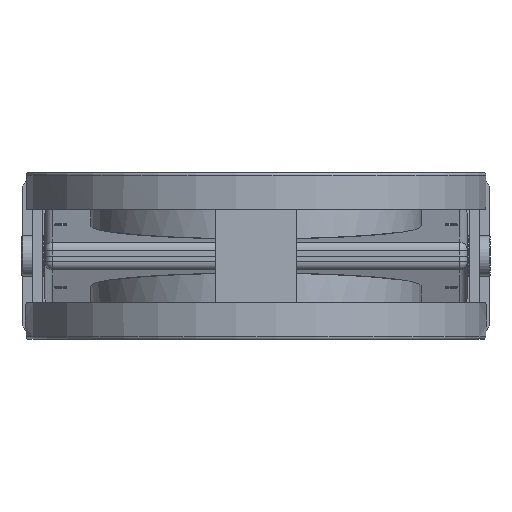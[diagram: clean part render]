
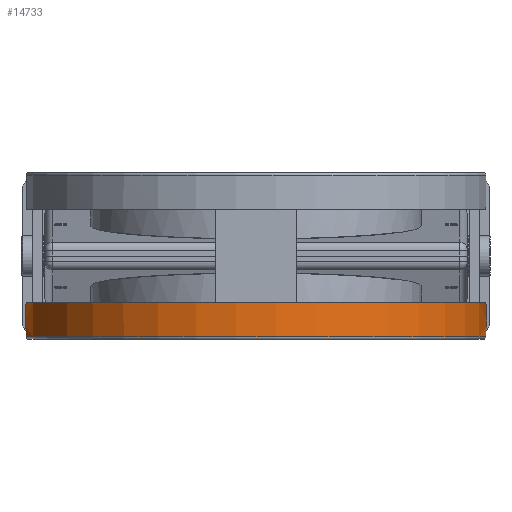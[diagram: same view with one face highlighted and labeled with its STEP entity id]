
A CAD part, left-side view. The second image highlights one B-rep face of the part: STEP entity #14733.
In plain terms, the highlighted cylindrical face has radius 142.5 mm (diameter 285 mm), a full revolution.
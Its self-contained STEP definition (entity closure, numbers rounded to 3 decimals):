
#2446=B_SPLINE_CURVE_WITH_KNOTS('',3,(#49616,#49617,#49618,#49619),
 .UNSPECIFIED.,.F.,.F.,(4,4),(0.,1.),.UNSPECIFIED.);
#2447=B_SPLINE_CURVE_WITH_KNOTS('',3,(#49622,#49623,#49624,#49625),
 .UNSPECIFIED.,.F.,.F.,(4,4),(0.,1.),.UNSPECIFIED.);
#2448=B_SPLINE_CURVE_WITH_KNOTS('',3,(#49627,#49628,#49629,#49630),
 .UNSPECIFIED.,.F.,.F.,(4,4),(0.,1.),.UNSPECIFIED.);
#2449=B_SPLINE_CURVE_WITH_KNOTS('',3,(#49638,#49639,#49640,#49641),
 .UNSPECIFIED.,.F.,.F.,(4,4),(0.,1.),.UNSPECIFIED.);
#2450=B_SPLINE_CURVE_WITH_KNOTS('',3,(#49644,#49645,#49646,#49647),
 .UNSPECIFIED.,.F.,.F.,(4,4),(0.,1.),.UNSPECIFIED.);
#2451=B_SPLINE_CURVE_WITH_KNOTS('',3,(#49649,#49650,#49651,#49652),
 .UNSPECIFIED.,.F.,.F.,(4,4),(0.,1.),.UNSPECIFIED.);
#6067=CIRCLE('',#30724,142.5);
#6068=CIRCLE('',#30726,142.5);
#14733=ADVANCED_FACE('',(#15646,#15647,#15648,#15649),#15209,.T.);
#15209=CYLINDRICAL_SURFACE('',#30727,142.5);
#15646=FACE_BOUND('',#17145,.T.);
#15647=FACE_BOUND('',#17146,.T.);
#15648=FACE_BOUND('',#17147,.T.);
#15649=FACE_BOUND('',#17148,.T.);
#17145=EDGE_LOOP('',(#23184,#23185,#23186));
#17146=EDGE_LOOP('',(#23187,#23188));
#17147=EDGE_LOOP('',(#23189));
#17148=EDGE_LOOP('',(#23190,#23191,#23192));
#23184=ORIENTED_EDGE('',*,*,#28297,.F.);
#23185=ORIENTED_EDGE('',*,*,#28296,.F.);
#23186=ORIENTED_EDGE('',*,*,#28298,.F.);
#23187=ORIENTED_EDGE('',*,*,#28299,.F.);
#23188=ORIENTED_EDGE('',*,*,#28300,.T.);
#23189=ORIENTED_EDGE('',*,*,#28301,.T.);
#23190=ORIENTED_EDGE('',*,*,#28302,.T.);
#23191=ORIENTED_EDGE('',*,*,#28303,.T.);
#23192=ORIENTED_EDGE('',*,*,#28304,.T.);
#25273=VERTEX_POINT('',#49620);
#25274=VERTEX_POINT('',#49621);
#25275=VERTEX_POINT('',#49626);
#25276=VERTEX_POINT('',#49633);
#25277=VERTEX_POINT('',#49634);
#25278=VERTEX_POINT('',#49637);
#25279=VERTEX_POINT('',#49642);
#25280=VERTEX_POINT('',#49643);
#25281=VERTEX_POINT('',#49648);
#28296=EDGE_CURVE('',#25273,#25274,#2446,.T.);
#28297=EDGE_CURVE('',#25274,#25275,#2447,.T.);
#28298=EDGE_CURVE('',#25275,#25273,#2448,.T.);
#28299=EDGE_CURVE('',#25276,#25277,#6067,.T.);
#28300=EDGE_CURVE('',#25276,#25277,#28353,.T.);
#28301=EDGE_CURVE('BCT_REF_386177',#25278,#25278,#6068,.T.);
#28302=EDGE_CURVE('',#25279,#25280,#2449,.T.);
#28303=EDGE_CURVE('',#25280,#25281,#2450,.T.);
#28304=EDGE_CURVE('',#25281,#25279,#2451,.T.);
#28353=ELLIPSE('',#30725,142.941,142.5);
#30724=AXIS2_PLACEMENT_3D('',#49632,#37089,#37090);
#30725=AXIS2_PLACEMENT_3D('',#49635,#37091,#37092);
#30726=AXIS2_PLACEMENT_3D('',#49636,#37093,#37094);
#30727=AXIS2_PLACEMENT_3D('',#49653,#37095,#37096);
#37089=DIRECTION('',(0.,0.,-1.));
#37090=DIRECTION('',(-0.966,0.259,0.));
#37091=DIRECTION('',(-0.078,0.,0.997));
#37092=DIRECTION('',(-0.997,0.,-0.078));
#37093=DIRECTION('',(0.,0.,-1.));
#37094=DIRECTION('',(-0.966,0.259,0.));
#37095=DIRECTION('',(0.,0.,-1.));
#37096=DIRECTION('',(-0.966,0.259,0.));
#49616=CARTESIAN_POINT('',(2.309,142.481,43.497));
#49617=CARTESIAN_POINT('',(1.54,142.494,42.164));
#49618=CARTESIAN_POINT('',(0.77,142.5,40.831));
#49619=CARTESIAN_POINT('',(0.,142.5,39.497));
#49620=CARTESIAN_POINT('',(2.309,142.481,43.497));
#49621=CARTESIAN_POINT('',(0.,142.5,39.497));
#49622=CARTESIAN_POINT('',(0.,142.5,39.497));
#49623=CARTESIAN_POINT('',(-0.77,142.5,40.831));
#49624=CARTESIAN_POINT('',(-1.54,142.494,42.164));
#49625=CARTESIAN_POINT('',(-2.309,142.481,43.497));
#49626=CARTESIAN_POINT('',(-2.309,142.481,43.497));
#49627=CARTESIAN_POINT('',(-2.309,142.481,43.497));
#49628=CARTESIAN_POINT('',(-0.77,142.506,43.497));
#49629=CARTESIAN_POINT('',(0.77,142.506,43.497));
#49630=CARTESIAN_POINT('',(2.309,142.481,43.497));
#49632=CARTESIAN_POINT('',(0.,0.,28.797));
#49633=CARTESIAN_POINT('',(129.5,-59.464,28.797));
#49634=CARTESIAN_POINT('',(129.5,59.464,28.797));
#49635=CARTESIAN_POINT('',(0.,0.,18.605));
#49636=CARTESIAN_POINT('',(0.,0.,49.997));
#49637=CARTESIAN_POINT('',(-137.644,36.882,49.997));
#49638=CARTESIAN_POINT('',(2.309,-142.481,43.497));
#49639=CARTESIAN_POINT('',(1.54,-142.494,42.164));
#49640=CARTESIAN_POINT('',(0.77,-142.5,40.831));
#49641=CARTESIAN_POINT('',(0.,-142.5,39.497));
#49642=CARTESIAN_POINT('',(2.309,-142.481,43.497));
#49643=CARTESIAN_POINT('',(0.,-142.5,39.497));
#49644=CARTESIAN_POINT('',(0.,-142.5,39.497));
#49645=CARTESIAN_POINT('',(-0.77,-142.5,40.831));
#49646=CARTESIAN_POINT('',(-1.54,-142.494,42.164));
#49647=CARTESIAN_POINT('',(-2.309,-142.481,43.497));
#49648=CARTESIAN_POINT('',(-2.309,-142.481,43.497));
#49649=CARTESIAN_POINT('',(-2.309,-142.481,43.497));
#49650=CARTESIAN_POINT('',(-0.77,-142.506,43.497));
#49651=CARTESIAN_POINT('',(0.77,-142.506,43.497));
#49652=CARTESIAN_POINT('',(2.309,-142.481,43.497));
#49653=CARTESIAN_POINT('',(0.,0.,28.797));
